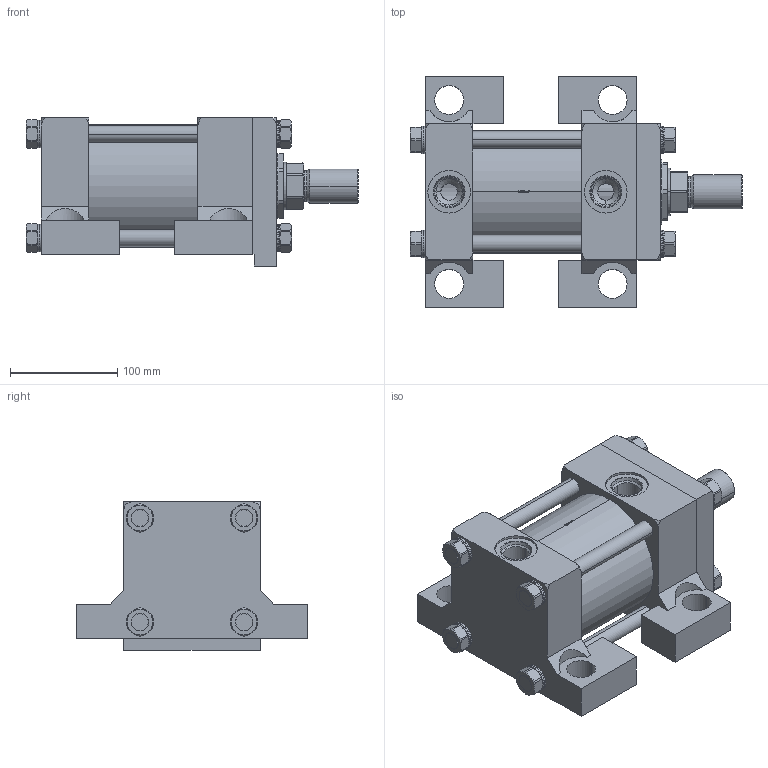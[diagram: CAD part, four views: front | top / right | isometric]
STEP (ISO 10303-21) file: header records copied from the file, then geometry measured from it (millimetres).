
FILE_DESCRIPTION (( 'STEP AP214' ), '1' );
FILE_NAME ('4.00CP2HHNAT114A2.000.step', '2026-03-26T21:16:08', ( '' ), ( '' ), 'SwSTEP 2.0', 'SolidWorks 2023', '' );
FILE_SCHEMA (( 'AUTOMOTIVE_DESIGN' ));
Length unit declared in the file: inch
Products named in the file (1): 4.00CP2HHNAT114A2.000
Bounding box: 309.56 x 215.9 x 138.11 mm (x, y, z)
Volume: 3082030.1 mm3; surface area: 491165.6 mm2
Topology: 44 solids, 44 shells, 1220 faces, 3148 edges, 2024 vertices
Faces by surface type: plane 808, cylinder 221, cone 161, bspline 22, torus 8
Entity records: 54978 total; most frequent: CARTESIAN_POINT 10661, ORIENTED_EDGE 6296, DIRECTION 5224, EDGE_CURVE 3148, VERTEX_POINT 2024, AXIS2_PLACEMENT_3D 1773, LINE 1678, VECTOR 1678
